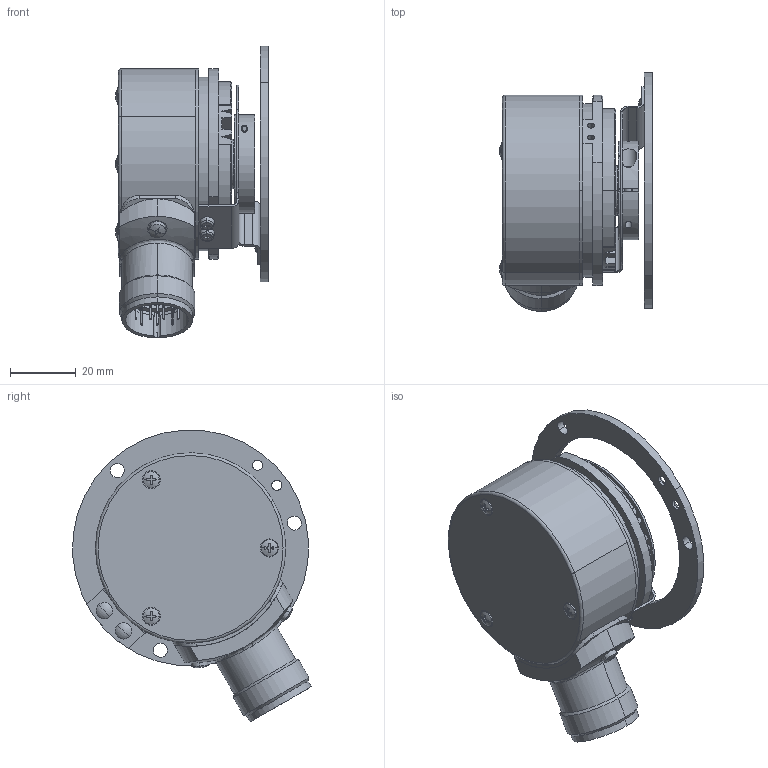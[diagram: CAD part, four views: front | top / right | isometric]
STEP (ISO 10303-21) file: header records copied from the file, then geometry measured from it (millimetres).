
FILE_DESCRIPTION (( 'STEP AP203' ), '1' );
FILE_NAME ('8.5825.48X2.XXXX.STEP', '2012-03-05T07:15:53', ( 'Hodot' ), ( 'Kuebler' ), 'SwSTEP 2.0', 'SolidWorks 2009', '' );
FILE_SCHEMA (( 'CONFIG_CONTROL_DESIGN' ));
Length unit declared in the file: millimetre
Products named in the file (1): 8.5825.48X2.XXXX
Bounding box: 46.58 x 72.74 x 88.94 mm (x, y, z)
Volume: 60641.3 mm3; surface area: 49369.9 mm2
Topology: 33 solids, 33 shells, 1020 faces, 2339 edges, 1440 vertices
Faces by surface type: cylinder 461, plane 299, cone 162, torus 56, sphere 38, bspline 4
Entity records: 31304 total; most frequent: CARTESIAN_POINT 7558, DIRECTION 5391, ORIENTED_EDGE 4570, EDGE_CURVE 2285, AXIS2_PLACEMENT_3D 2207, VERTEX_POINT 1440, EDGE_LOOP 1209, CIRCLE 1190
